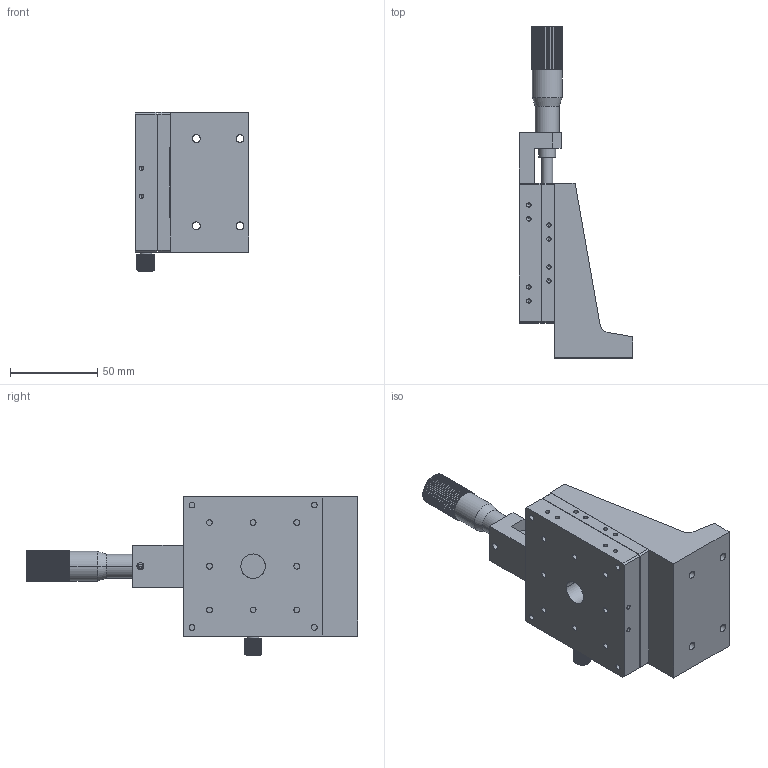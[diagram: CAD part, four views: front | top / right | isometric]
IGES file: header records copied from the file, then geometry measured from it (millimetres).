
Start section: SolidWorks IGES file using analytic representation for surfaces
Bounding box: 65 x 190 x 91.2 mm (x, y, z)
Surface area: 76303.1 mm2 (no closed solid volume)
Topology: 0 solids, 0 shells, 668 faces, 8107 edges, 8071 vertices
Faces by surface type: revolution 463, bspline 205
